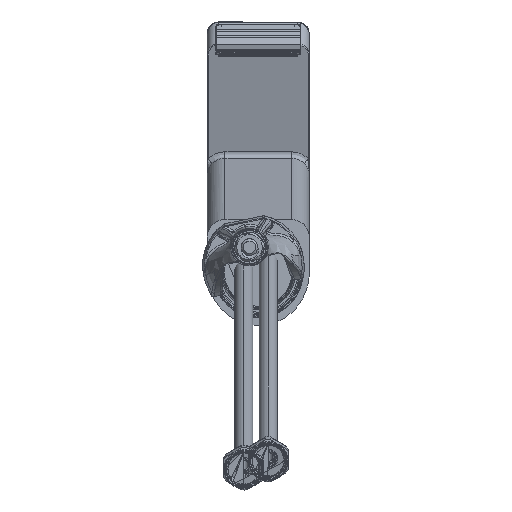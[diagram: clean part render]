
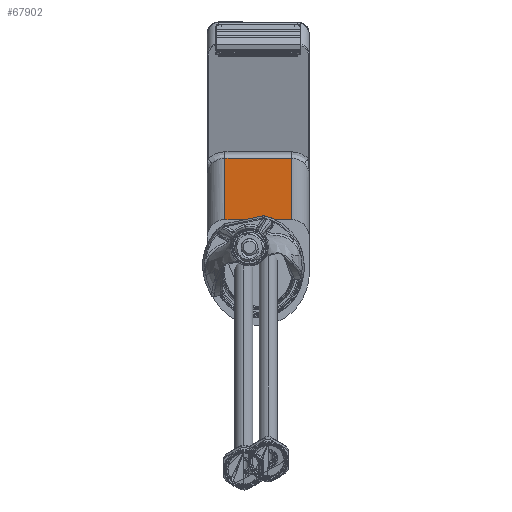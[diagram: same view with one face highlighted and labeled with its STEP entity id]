
A CAD part, front view. The second image highlights one B-rep face of the part: STEP entity #67902.
In plain terms, the highlighted planar face has unit normal (0, -0.259, 0.966).
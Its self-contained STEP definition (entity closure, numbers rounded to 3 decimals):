
#2878 = EDGE_CURVE ( 'NONE', #113856, #48658, #4171, .T. ) ;
#4171 = LINE ( 'NONE', #74757, #44061 ) ;
#4822 = AXIS2_PLACEMENT_3D ( 'NONE', #94540, #64245, #106125 ) ;
#10040 = LINE ( 'NONE', #92311, #22931 ) ;
#12791 = DIRECTION ( 'NONE',  ( 0., -0.966, -0.259 ) ) ;
#22931 = VECTOR ( 'NONE', #112403, 1000. ) ;
#24396 = DIRECTION ( 'NONE',  ( 1., 0., 0. ) ) ;
#33817 = CARTESIAN_POINT ( 'NONE',  ( -15.75, 108.186, 54.094 ) ) ;
#35466 = CARTESIAN_POINT ( 'NONE',  ( 0., 108.186, 54.094 ) ) ;
#40062 = VERTEX_POINT ( 'NONE', #33817 ) ;
#43043 = ORIENTED_EDGE ( 'NONE', *, *, #53628, .F. ) ;
#44061 = VECTOR ( 'NONE', #12791, 1000. ) ;
#46799 = DIRECTION ( 'NONE',  ( 0., 0.966, 0.259 ) ) ;
#48658 = VERTEX_POINT ( 'NONE', #100909 ) ;
#48908 = FACE_OUTER_BOUND ( 'NONE', #67037, .T. ) ;
#53628 = EDGE_CURVE ( 'NONE', #40062, #113856, #125640, .T. ) ;
#61146 = EDGE_CURVE ( 'NONE', #71130, #48658, #10040, .T. ) ;
#64245 = DIRECTION ( 'NONE',  ( 0., 0.259, -0.966 ) ) ;
#67037 = EDGE_LOOP ( 'NONE', ( #92528, #129521, #43043, #89849 ) ) ;
#67902 = ADVANCED_FACE ( 'NONE', ( #48908 ), #125807, .F. ) ;
#68188 = EDGE_CURVE ( 'NONE', #71130, #40062, #116042, .T. ) ;
#71130 = VERTEX_POINT ( 'NONE', #100630 ) ;
#74757 = CARTESIAN_POINT ( 'NONE',  ( 15.75, 110.601, 54.741 ) ) ;
#77106 = CARTESIAN_POINT ( 'NONE',  ( -15.75, 110.601, 54.741 ) ) ;
#89849 = ORIENTED_EDGE ( 'NONE', *, *, #68188, .F. ) ;
#92311 = CARTESIAN_POINT ( 'NONE',  ( 0., 0., 25.105 ) ) ;
#92528 = ORIENTED_EDGE ( 'NONE', *, *, #61146, .T. ) ;
#94540 = CARTESIAN_POINT ( 'NONE',  ( 0., 110.601, 54.741 ) ) ;
#100630 = CARTESIAN_POINT ( 'NONE',  ( -15.75, 0., 25.105 ) ) ;
#100909 = CARTESIAN_POINT ( 'NONE',  ( 15.75, 0., 25.105 ) ) ;
#102675 = CARTESIAN_POINT ( 'NONE',  ( 15.75, 108.186, 54.094 ) ) ;
#106125 = DIRECTION ( 'NONE',  ( 0., 0.966, 0.259 ) ) ;
#109548 = VECTOR ( 'NONE', #46799, 1000. ) ;
#112403 = DIRECTION ( 'NONE',  ( 1., 0., 0. ) ) ;
#113856 = VERTEX_POINT ( 'NONE', #102675 ) ;
#116042 = LINE ( 'NONE', #77106, #109548 ) ;
#125640 = LINE ( 'NONE', #35466, #132048 ) ;
#125807 = PLANE ( 'NONE',  #4822 ) ;
#129521 = ORIENTED_EDGE ( 'NONE', *, *, #2878, .F. ) ;
#132048 = VECTOR ( 'NONE', #24396, 1000. ) ;
